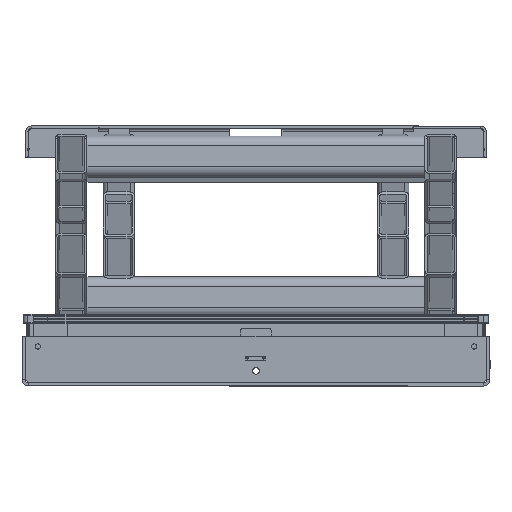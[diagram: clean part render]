
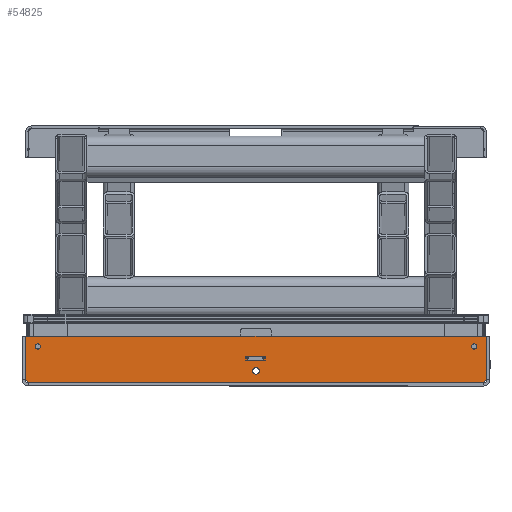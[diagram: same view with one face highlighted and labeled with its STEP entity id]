
A CAD part, left-side view. The second image highlights one B-rep face of the part: STEP entity #54825.
In plain terms, the highlighted planar face has unit normal (-1, 0, 0) as drawn and (0, 0, -1) by its records, which use the part's own axes.
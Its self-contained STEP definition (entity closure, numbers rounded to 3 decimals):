
#3769=PLANE('',#59120);
#6712=LINE('',#84962,#11521);
#6718=LINE('',#84986,#11527);
#6724=LINE('',#85010,#11533);
#6730=LINE('',#85033,#11539);
#6734=LINE('',#85046,#11543);
#6735=LINE('',#85050,#11544);
#6736=LINE('',#85052,#11545);
#6737=LINE('',#85054,#11546);
#6738=LINE('',#85056,#11547);
#6739=LINE('',#85057,#11548);
#11521=VECTOR('',#68862,2.636);
#11527=VECTOR('',#68888,26.636);
#11533=VECTOR('',#68914,2.636);
#11539=VECTOR('',#68940,26.636);
#11543=VECTOR('',#68952,885.);
#11544=VECTOR('',#68955,83.);
#11545=VECTOR('',#68956,8.485);
#11546=VECTOR('',#68957,875.);
#11547=VECTOR('',#68958,8.485);
#11548=VECTOR('',#68959,83.);
#14599=FACE_BOUND('',#19299,.T.);
#14600=FACE_BOUND('',#19300,.T.);
#14601=FACE_BOUND('',#19301,.T.);
#14602=FACE_BOUND('',#19302,.T.);
#16075=FACE_OUTER_BOUND('',#19298,.T.);
#19298=EDGE_LOOP('',(#43650,#43651,#43652,#43653,#43654,#43655,#43656,#43657));
#19299=EDGE_LOOP('',(#43658,#43659,#43660,#43661,#43662,#43663,#43664,#43665,
#43666,#43667,#43668,#43669,#43670,#43671,#43672,#43673));
#19300=EDGE_LOOP('',(#43674));
#19301=EDGE_LOOP('',(#43675));
#19302=EDGE_LOOP('',(#43676));
#22418=CIRCLE('',#59078,1.);
#22420=CIRCLE('',#59081,1.);
#22422=CIRCLE('',#59084,1.);
#22424=CIRCLE('',#59088,1.);
#22426=CIRCLE('',#59091,1.);
#22428=CIRCLE('',#59094,1.);
#22430=CIRCLE('',#59098,1.);
#22432=CIRCLE('',#59101,1.);
#22434=CIRCLE('',#59104,1.);
#22436=CIRCLE('',#59108,1.);
#22438=CIRCLE('',#59111,1.);
#22440=CIRCLE('',#59114,1.);
#22443=CIRCLE('',#59119,1.);
#22444=CIRCLE('',#59121,1.);
#22445=CIRCLE('',#59122,5.);
#22446=CIRCLE('',#59123,5.);
#22447=CIRCLE('',#59124,6.25);
#25793=VERTEX_POINT('',#84940);
#25794=VERTEX_POINT('',#84941);
#25797=VERTEX_POINT('',#84949);
#25799=VERTEX_POINT('',#84955);
#25801=VERTEX_POINT('',#84961);
#25803=VERTEX_POINT('',#84967);
#25805=VERTEX_POINT('',#84973);
#25807=VERTEX_POINT('',#84979);
#25809=VERTEX_POINT('',#84985);
#25811=VERTEX_POINT('',#84991);
#25813=VERTEX_POINT('',#84997);
#25815=VERTEX_POINT('',#85003);
#25817=VERTEX_POINT('',#85009);
#25819=VERTEX_POINT('',#85015);
#25821=VERTEX_POINT('',#85021);
#25823=VERTEX_POINT('',#85027);
#25827=VERTEX_POINT('',#85039);
#25828=VERTEX_POINT('',#85041);
#25829=VERTEX_POINT('',#85045);
#25830=VERTEX_POINT('',#85047);
#25831=VERTEX_POINT('',#85049);
#25832=VERTEX_POINT('',#85051);
#25833=VERTEX_POINT('',#85053);
#25834=VERTEX_POINT('',#85055);
#25835=VERTEX_POINT('',#85058);
#25836=VERTEX_POINT('',#85060);
#25837=VERTEX_POINT('',#85062);
#32225=EDGE_CURVE('',#25793,#25794,#22418,.T.);
#32229=EDGE_CURVE('',#25794,#25797,#22420,.T.);
#32232=EDGE_CURVE('',#25797,#25799,#22422,.T.);
#32235=EDGE_CURVE('',#25799,#25801,#6712,.T.);
#32238=EDGE_CURVE('',#25801,#25803,#22424,.T.);
#32241=EDGE_CURVE('',#25803,#25805,#22426,.T.);
#32244=EDGE_CURVE('',#25805,#25807,#22428,.T.);
#32247=EDGE_CURVE('',#25807,#25809,#6718,.T.);
#32250=EDGE_CURVE('',#25809,#25811,#22430,.T.);
#32253=EDGE_CURVE('',#25811,#25813,#22432,.T.);
#32256=EDGE_CURVE('',#25813,#25815,#22434,.T.);
#32259=EDGE_CURVE('',#25815,#25817,#6724,.T.);
#32262=EDGE_CURVE('',#25817,#25819,#22436,.T.);
#32265=EDGE_CURVE('',#25819,#25821,#22438,.T.);
#32268=EDGE_CURVE('',#25821,#25823,#22440,.T.);
#32271=EDGE_CURVE('',#25823,#25793,#6730,.T.);
#32275=EDGE_CURVE('',#25827,#25828,#22443,.T.);
#32277=EDGE_CURVE('',#25827,#25829,#6734,.T.);
#32278=EDGE_CURVE('',#25830,#25829,#22444,.T.);
#32279=EDGE_CURVE('',#25830,#25831,#6735,.T.);
#32280=EDGE_CURVE('',#25832,#25831,#6736,.T.);
#32281=EDGE_CURVE('',#25832,#25833,#6737,.T.);
#32282=EDGE_CURVE('',#25834,#25833,#6738,.T.);
#32283=EDGE_CURVE('',#25834,#25828,#6739,.T.);
#32284=EDGE_CURVE('',#25835,#25835,#22445,.T.);
#32285=EDGE_CURVE('',#25836,#25836,#22446,.T.);
#32286=EDGE_CURVE('',#25837,#25837,#22447,.T.);
#43650=ORIENTED_EDGE('',*,*,#32275,.F.);
#43651=ORIENTED_EDGE('',*,*,#32277,.T.);
#43652=ORIENTED_EDGE('',*,*,#32278,.F.);
#43653=ORIENTED_EDGE('',*,*,#32279,.T.);
#43654=ORIENTED_EDGE('',*,*,#32280,.F.);
#43655=ORIENTED_EDGE('',*,*,#32281,.T.);
#43656=ORIENTED_EDGE('',*,*,#32282,.F.);
#43657=ORIENTED_EDGE('',*,*,#32283,.T.);
#43658=ORIENTED_EDGE('',*,*,#32225,.T.);
#43659=ORIENTED_EDGE('',*,*,#32229,.T.);
#43660=ORIENTED_EDGE('',*,*,#32232,.T.);
#43661=ORIENTED_EDGE('',*,*,#32235,.T.);
#43662=ORIENTED_EDGE('',*,*,#32238,.T.);
#43663=ORIENTED_EDGE('',*,*,#32241,.T.);
#43664=ORIENTED_EDGE('',*,*,#32244,.T.);
#43665=ORIENTED_EDGE('',*,*,#32247,.T.);
#43666=ORIENTED_EDGE('',*,*,#32250,.T.);
#43667=ORIENTED_EDGE('',*,*,#32253,.T.);
#43668=ORIENTED_EDGE('',*,*,#32256,.T.);
#43669=ORIENTED_EDGE('',*,*,#32259,.T.);
#43670=ORIENTED_EDGE('',*,*,#32262,.T.);
#43671=ORIENTED_EDGE('',*,*,#32265,.T.);
#43672=ORIENTED_EDGE('',*,*,#32268,.T.);
#43673=ORIENTED_EDGE('',*,*,#32271,.T.);
#43674=ORIENTED_EDGE('',*,*,#32284,.T.);
#43675=ORIENTED_EDGE('',*,*,#32285,.T.);
#43676=ORIENTED_EDGE('',*,*,#32286,.T.);
#54825=ADVANCED_FACE('',(#16075,#14599,#14600,#14601,#14602),#3769,.F.);
#59078=AXIS2_PLACEMENT_3D('',#84942,#68840,#68841);
#59081=AXIS2_PLACEMENT_3D('',#84950,#68848,#68849);
#59084=AXIS2_PLACEMENT_3D('',#84956,#68855,#68856);
#59088=AXIS2_PLACEMENT_3D('',#84968,#68867,#68868);
#59091=AXIS2_PLACEMENT_3D('',#84974,#68874,#68875);
#59094=AXIS2_PLACEMENT_3D('',#84980,#68881,#68882);
#59098=AXIS2_PLACEMENT_3D('',#84992,#68893,#68894);
#59101=AXIS2_PLACEMENT_3D('',#84998,#68900,#68901);
#59104=AXIS2_PLACEMENT_3D('',#85004,#68907,#68908);
#59108=AXIS2_PLACEMENT_3D('',#85016,#68919,#68920);
#59111=AXIS2_PLACEMENT_3D('',#85022,#68926,#68927);
#59114=AXIS2_PLACEMENT_3D('',#85028,#68933,#68934);
#59119=AXIS2_PLACEMENT_3D('',#85042,#68947,#68948);
#59120=AXIS2_PLACEMENT_3D('',#85044,#68950,#68951);
#59121=AXIS2_PLACEMENT_3D('',#85048,#68953,#68954);
#59122=AXIS2_PLACEMENT_3D('',#85059,#68960,#68961);
#59123=AXIS2_PLACEMENT_3D('',#85061,#68962,#68963);
#59124=AXIS2_PLACEMENT_3D('',#85063,#68964,#68965);
#68840=DIRECTION('center_axis',(0.,0.,-1.));
#68841=DIRECTION('ref_axis',(-0.866,-0.5,0.));
#68848=DIRECTION('center_axis',(0.,0.,1.));
#68849=DIRECTION('ref_axis',(-0.866,-0.5,0.));
#68855=DIRECTION('center_axis',(0.,0.,-1.));
#68856=DIRECTION('ref_axis',(1.,0.,0.));
#68862=DIRECTION('',(0.,-1.,0.));
#68867=DIRECTION('center_axis',(0.,0.,-1.));
#68868=DIRECTION('ref_axis',(0.5,-0.866,0.));
#68874=DIRECTION('center_axis',(0.,0.,1.));
#68875=DIRECTION('ref_axis',(0.5,-0.866,0.));
#68881=DIRECTION('center_axis',(0.,0.,-1.));
#68882=DIRECTION('ref_axis',(0.,1.,0.));
#68888=DIRECTION('',(1.,0.,0.));
#68893=DIRECTION('center_axis',(0.,0.,-1.));
#68894=DIRECTION('ref_axis',(0.866,0.5,0.));
#68900=DIRECTION('center_axis',(0.,0.,1.));
#68901=DIRECTION('ref_axis',(0.866,0.5,0.));
#68907=DIRECTION('center_axis',(0.,0.,-1.));
#68908=DIRECTION('ref_axis',(-1.,0.,0.));
#68914=DIRECTION('',(0.,1.,0.));
#68919=DIRECTION('center_axis',(0.,0.,-1.));
#68920=DIRECTION('ref_axis',(-0.5,0.866,0.));
#68926=DIRECTION('center_axis',(0.,0.,1.));
#68927=DIRECTION('ref_axis',(-0.5,0.866,0.));
#68933=DIRECTION('center_axis',(0.,0.,-1.));
#68934=DIRECTION('ref_axis',(0.,-1.,0.));
#68940=DIRECTION('',(-1.,0.,0.));
#68947=DIRECTION('center_axis',(0.,0.,1.));
#68948=DIRECTION('ref_axis',(0.707,-0.707,0.));
#68950=DIRECTION('center_axis',(0.,0.,1.));
#68951=DIRECTION('ref_axis',(1.,0.,0.));
#68952=DIRECTION('',(-1.,0.,0.));
#68953=DIRECTION('center_axis',(0.,0.,1.));
#68954=DIRECTION('ref_axis',(-0.707,-0.707,0.));
#68955=DIRECTION('',(0.,1.,0.));
#68956=DIRECTION('',(-0.707,-0.707,0.));
#68957=DIRECTION('',(1.,0.,0.));
#68958=DIRECTION('',(-0.707,0.707,0.));
#68959=DIRECTION('',(0.,-1.,0.));
#68960=DIRECTION('center_axis',(0.,0.,1.));
#68961=DIRECTION('ref_axis',(1.,0.,0.));
#68962=DIRECTION('center_axis',(0.,0.,1.));
#68963=DIRECTION('ref_axis',(1.,0.,0.));
#68964=DIRECTION('center_axis',(0.,0.,1.));
#68965=DIRECTION('ref_axis',(1.,0.,0.));
#84940=CARTESIAN_POINT('',(-14.318,1.1,0.));
#84941=CARTESIAN_POINT('',(-15.184,1.6,0.));
#84942=CARTESIAN_POINT('Origin',(-14.318,2.1,0.));
#84949=CARTESIAN_POINT('',(-16.55,0.234,0.));
#84950=CARTESIAN_POINT('Origin',(-16.05,1.1,0.));
#84955=CARTESIAN_POINT('',(-16.05,-0.632,0.));
#84956=CARTESIAN_POINT('Origin',(-17.05,-0.632,0.));
#84961=CARTESIAN_POINT('',(-16.05,-3.268,0.));
#84962=CARTESIAN_POINT('',(-16.05,-0.316,0.));
#84967=CARTESIAN_POINT('',(-16.55,-4.134,0.));
#84968=CARTESIAN_POINT('Origin',(-17.05,-3.268,0.));
#84973=CARTESIAN_POINT('',(-15.184,-5.5,0.));
#84974=CARTESIAN_POINT('Origin',(-16.05,-5.,0.));
#84979=CARTESIAN_POINT('',(-14.318,-5.,0.));
#84980=CARTESIAN_POINT('Origin',(-14.318,-6.,0.));
#84985=CARTESIAN_POINT('',(12.318,-5.,0.));
#84986=CARTESIAN_POINT('',(-7.159,-5.,0.));
#84991=CARTESIAN_POINT('',(13.184,-5.5,0.));
#84992=CARTESIAN_POINT('Origin',(12.318,-6.,0.));
#84997=CARTESIAN_POINT('',(14.55,-4.134,0.));
#84998=CARTESIAN_POINT('Origin',(14.05,-5.,0.));
#85003=CARTESIAN_POINT('',(14.05,-3.268,0.));
#85004=CARTESIAN_POINT('Origin',(15.05,-3.268,0.));
#85009=CARTESIAN_POINT('',(14.05,-0.632,0.));
#85010=CARTESIAN_POINT('',(14.05,-1.634,0.));
#85015=CARTESIAN_POINT('',(14.55,0.234,0.));
#85016=CARTESIAN_POINT('Origin',(15.05,-0.632,0.));
#85021=CARTESIAN_POINT('',(13.184,1.6,0.));
#85022=CARTESIAN_POINT('Origin',(14.05,1.1,0.));
#85027=CARTESIAN_POINT('',(12.318,1.1,0.));
#85028=CARTESIAN_POINT('Origin',(12.318,2.1,0.));
#85033=CARTESIAN_POINT('',(6.159,1.1,0.));
#85039=CARTESIAN_POINT('',(442.5,-45.,0.));
#85041=CARTESIAN_POINT('',(443.5,-44.,0.));
#85042=CARTESIAN_POINT('Origin',(442.5,-44.,0.));
#85044=CARTESIAN_POINT('Origin',(0.,0.,
0.));
#85045=CARTESIAN_POINT('',(-442.5,-45.,0.));
#85046=CARTESIAN_POINT('',(443.5,-45.,0.));
#85047=CARTESIAN_POINT('',(-443.5,-44.,0.));
#85048=CARTESIAN_POINT('Origin',(-442.5,-44.,0.));
#85049=CARTESIAN_POINT('',(-443.5,39.,0.));
#85050=CARTESIAN_POINT('',(-443.5,-45.,0.));
#85051=CARTESIAN_POINT('',(-437.5,45.,0.));
#85052=CARTESIAN_POINT('',(-340.875,141.625,0.));
#85053=CARTESIAN_POINT('',(437.5,45.,0.));
#85054=CARTESIAN_POINT('',(-443.5,45.,0.));
#85055=CARTESIAN_POINT('',(443.5,39.,0.));
#85056=CARTESIAN_POINT('',(340.875,141.625,0.));
#85057=CARTESIAN_POINT('',(443.5,45.,0.));
#85058=CARTESIAN_POINT('',(414.5,-25.,0.));
#85059=CARTESIAN_POINT('Origin',(419.5,-25.,0.));
#85060=CARTESIAN_POINT('',(-424.5,-25.,0.));
#85061=CARTESIAN_POINT('Origin',(-419.5,-25.,0.));
#85062=CARTESIAN_POINT('',(-6.25,22.,0.));
#85063=CARTESIAN_POINT('Origin',(0.,22.,0.));
